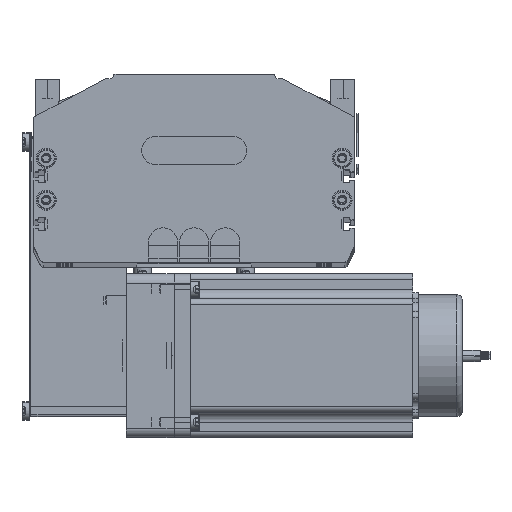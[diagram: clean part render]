
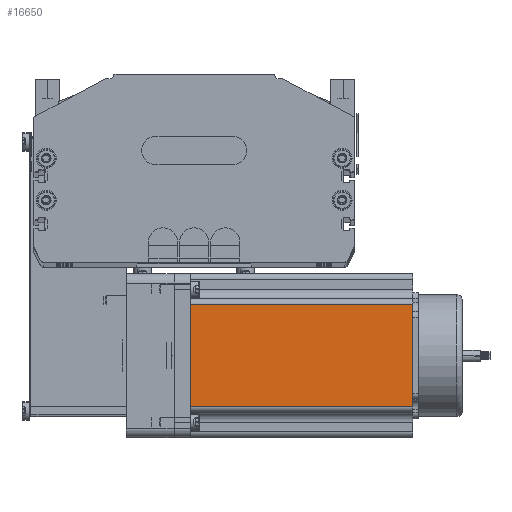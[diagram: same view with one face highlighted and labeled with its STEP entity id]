
A CAD part, top view. The second image highlights one B-rep face of the part: STEP entity #16650.
In plain terms, the highlighted planar face has unit normal (0, 0, 1) as drawn and (0, -1, 0) by its records, which use the part's own axes.
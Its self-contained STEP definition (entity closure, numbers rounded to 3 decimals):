
#16422 = VERTEX_POINT ( 'NONE', #73381 ) ;
#16423 = EDGE_LOOP ( 'NONE', ( #16507, #16516, #16638, #16537 ) ) ;
#16426 = EDGE_CURVE ( 'NONE', #16687, #16499, #73476, .T. ) ;
#16499 = VERTEX_POINT ( 'NONE', #73485 ) ;
#16507 = ORIENTED_EDGE ( 'NONE', *, *, #16426, .T. ) ;
#16514 = EDGE_CURVE ( 'NONE', #16422, #16640, #72994, .T. ) ;
#16516 = ORIENTED_EDGE ( 'NONE', *, *, #16583, .T. ) ;
#16537 = ORIENTED_EDGE ( 'NONE', *, *, #16560, .T. ) ;
#16560 = EDGE_CURVE ( 'NONE', #16422, #16687, #73536, .T. ) ;
#16583 = EDGE_CURVE ( 'NONE', #16499, #16640, #73762, .T. ) ;
#16638 = ORIENTED_EDGE ( 'NONE', *, *, #16514, .F. ) ;
#16640 = VERTEX_POINT ( 'NONE', #73713 ) ;
#16650 = ADVANCED_FACE ( 'NONE', ( #73663 ), #73662, .F. ) ;
#16687 = VERTEX_POINT ( 'NONE', #73609 ) ;
#72974 = DIRECTION ( 'NONE',  ( 1., 0., 0. ) ) ;
#72975 = VECTOR ( 'NONE', #72974, 1000. ) ;
#72992 = CARTESIAN_POINT ( 'NONE',  ( 0., 0., 116.5 ) ) ;
#72994 = LINE ( 'NONE', #72992, #72975 ) ;
#73381 = CARTESIAN_POINT ( 'NONE',  ( 16.16, 0., 116.5 ) ) ;
#73421 = VECTOR ( 'NONE', #73495, 1000. ) ;
#73422 = CARTESIAN_POINT ( 'NONE',  ( 0., 0., 0. ) ) ;
#73476 = LINE ( 'NONE', #73422, #73421 ) ;
#73485 = CARTESIAN_POINT ( 'NONE',  ( 69.74, 0., 0. ) ) ;
#73495 = DIRECTION ( 'NONE',  ( 1., 0., 0. ) ) ;
#73534 = VECTOR ( 'NONE', #73553, 1000. ) ;
#73535 = CARTESIAN_POINT ( 'NONE',  ( 16.16, 0., 116.5 ) ) ;
#73536 = LINE ( 'NONE', #73535, #73534 ) ;
#73553 = DIRECTION ( 'NONE',  ( 0., 0., -1. ) ) ;
#73600 = DIRECTION ( 'NONE',  ( 0., 0., 1. ) ) ;
#73601 = DIRECTION ( 'NONE',  ( 0., 1., 0. ) ) ;
#73609 = CARTESIAN_POINT ( 'NONE',  ( 16.16, 0., 0. ) ) ;
#73662 = PLANE ( 'NONE',  #73764 ) ;
#73663 = FACE_OUTER_BOUND ( 'NONE', #16423, .T. ) ;
#73713 = CARTESIAN_POINT ( 'NONE',  ( 69.74, 0., 116.5 ) ) ;
#73739 = DIRECTION ( 'NONE',  ( 0., 0., 1. ) ) ;
#73740 = VECTOR ( 'NONE', #73739, 1000. ) ;
#73761 = CARTESIAN_POINT ( 'NONE',  ( 69.74, 0., 116.5 ) ) ;
#73762 = LINE ( 'NONE', #73761, #73740 ) ;
#73763 = CARTESIAN_POINT ( 'NONE',  ( 0., 0., 116.5 ) ) ;
#73764 = AXIS2_PLACEMENT_3D ( 'NONE', #73763, #73601, #73600 ) ;
